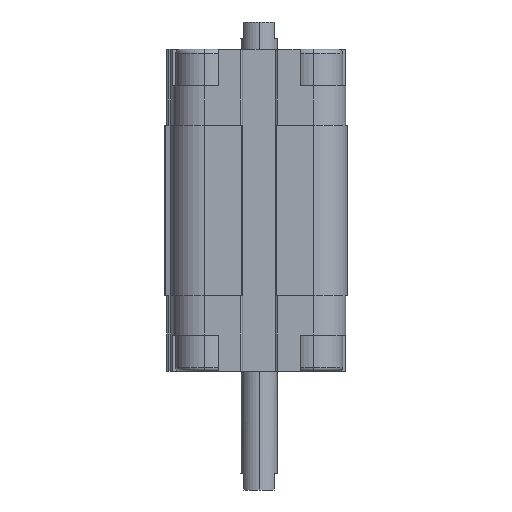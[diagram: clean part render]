
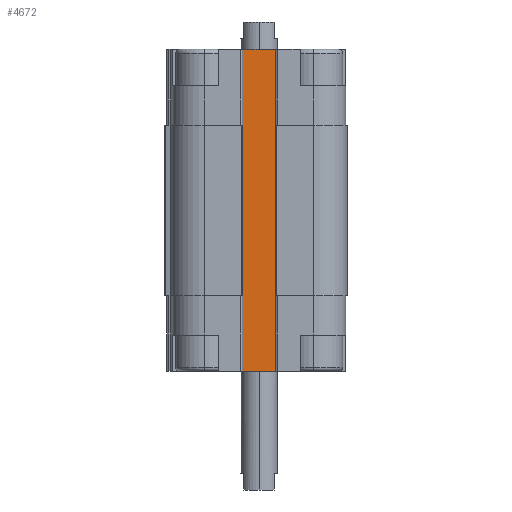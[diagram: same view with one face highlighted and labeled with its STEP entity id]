
A CAD part, left-side view. The second image highlights one B-rep face of the part: STEP entity #4672.
In plain terms, the highlighted planar face has unit normal (-1, 0, 0).
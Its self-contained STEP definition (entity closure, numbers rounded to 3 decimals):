
#29 = ORIENTED_EDGE ( 'NONE', *, *, #1718, .T. ) ;
#385 = CARTESIAN_POINT ( 'NONE',  ( -9.5, 3., -53. ) ) ;
#614 = VECTOR ( 'NONE', #13409, 1000. ) ;
#686 = CARTESIAN_POINT ( 'NONE',  ( -9.5, -3.2, -40.5 ) ) ;
#718 = CARTESIAN_POINT ( 'NONE',  ( -9.5, 3., -53. ) ) ;
#920 = DIRECTION ( 'NONE',  ( 0., -1., 0. ) ) ;
#966 = EDGE_CURVE ( 'NONE', #11577, #6899, #8906, .T. ) ;
#1143 = LINE ( 'NONE', #4037, #3323 ) ;
#1718 = EDGE_CURVE ( 'NONE', #1913, #17606, #8847, .T. ) ;
#1796 = ORIENTED_EDGE ( 'NONE', *, *, #5648, .T. ) ;
#1844 = DIRECTION ( 'NONE',  ( 0., -1., 0. ) ) ;
#1913 = VERTEX_POINT ( 'NONE', #10990 ) ;
#2383 = EDGE_CURVE ( 'NONE', #1913, #7370, #14013, .T. ) ;
#3225 = VECTOR ( 'NONE', #13623, 1000. ) ;
#3323 = VECTOR ( 'NONE', #17577, 1000. ) ;
#3402 = DIRECTION ( 'NONE',  ( 0., -1., 0. ) ) ;
#3404 = LINE ( 'NONE', #686, #12833 ) ;
#3892 = CARTESIAN_POINT ( 'NONE',  ( -9.5, 3., 0. ) ) ;
#3950 = DIRECTION ( 'NONE',  ( 0., 0., 1. ) ) ;
#4037 = CARTESIAN_POINT ( 'NONE',  ( -9.5, -3., -12.5 ) ) ;
#4591 = EDGE_CURVE ( 'NONE', #13604, #16114, #8155, .T. ) ;
#4672 = ADVANCED_FACE ( 'NONE', ( #10368 ), #9112, .T. ) ;
#4846 = EDGE_CURVE ( 'NONE', #8683, #8618, #7843, .T. ) ;
#5054 = CARTESIAN_POINT ( 'NONE',  ( -9.5, 3., -12.5 ) ) ;
#5345 = CARTESIAN_POINT ( 'NONE',  ( -9.5, -3., 0. ) ) ;
#5534 = VERTEX_POINT ( 'NONE', #13019 ) ;
#5648 = EDGE_CURVE ( 'NONE', #13604, #8618, #1143, .T. ) ;
#5664 = CARTESIAN_POINT ( 'NONE',  ( -9.5, -3., -53. ) ) ;
#6015 = DIRECTION ( 'NONE',  ( 0., 0., 1. ) ) ;
#6333 = EDGE_CURVE ( 'NONE', #8582, #5534, #12722, .T. ) ;
#6727 = LINE ( 'NONE', #5664, #11323 ) ;
#6817 = EDGE_CURVE ( 'NONE', #5534, #16114, #3404, .T. ) ;
#6899 = VERTEX_POINT ( 'NONE', #15790 ) ;
#6910 = CARTESIAN_POINT ( 'NONE',  ( -9.5, -3., -12.5 ) ) ;
#6986 = VECTOR ( 'NONE', #3950, 1000. ) ;
#7370 = VERTEX_POINT ( 'NONE', #14849 ) ;
#7412 = DIRECTION ( 'NONE',  ( 0., -1., 0. ) ) ;
#7577 = CARTESIAN_POINT ( 'NONE',  ( -9.5, 3.2, -40.5 ) ) ;
#7643 = DIRECTION ( 'NONE',  ( 0., -1., 0. ) ) ;
#7843 = LINE ( 'NONE', #3892, #614 ) ;
#7852 = EDGE_CURVE ( 'NONE', #15633, #8683, #17345, .T. ) ;
#8155 = LINE ( 'NONE', #14973, #3225 ) ;
#8178 = ORIENTED_EDGE ( 'NONE', *, *, #2383, .F. ) ;
#8356 = DIRECTION ( 'NONE',  ( 0., 0., 1. ) ) ;
#8582 = VERTEX_POINT ( 'NONE', #10827 ) ;
#8618 = VERTEX_POINT ( 'NONE', #5345 ) ;
#8672 = CARTESIAN_POINT ( 'NONE',  ( -9.5, 3.2, -40.5 ) ) ;
#8683 = VERTEX_POINT ( 'NONE', #13507 ) ;
#8847 = LINE ( 'NONE', #7577, #14554 ) ;
#8906 = LINE ( 'NONE', #718, #14407 ) ;
#9112 = PLANE ( 'NONE',  #12971 ) ;
#9512 = LINE ( 'NONE', #11134, #6986 ) ;
#9593 = EDGE_CURVE ( 'NONE', #6899, #8582, #6727, .T. ) ;
#10148 = ORIENTED_EDGE ( 'NONE', *, *, #6817, .T. ) ;
#10368 = FACE_OUTER_BOUND ( 'NONE', #12262, .T. ) ;
#10441 = VECTOR ( 'NONE', #3402, 1000. ) ;
#10540 = DIRECTION ( 'NONE',  ( 0., 0., 1. ) ) ;
#10653 = EDGE_CURVE ( 'NONE', #11577, #17606, #9512, .T. ) ;
#10767 = VECTOR ( 'NONE', #1844, 1000. ) ;
#10808 = EDGE_CURVE ( 'NONE', #7370, #15633, #16868, .T. ) ;
#10827 = CARTESIAN_POINT ( 'NONE',  ( -9.5, -3., -40.5 ) ) ;
#10990 = CARTESIAN_POINT ( 'NONE',  ( -9.5, 3.2, -40.5 ) ) ;
#11134 = CARTESIAN_POINT ( 'NONE',  ( -9.5, 3., -53. ) ) ;
#11212 = ORIENTED_EDGE ( 'NONE', *, *, #4591, .F. ) ;
#11323 = VECTOR ( 'NONE', #14905, 1000. ) ;
#11577 = VERTEX_POINT ( 'NONE', #385 ) ;
#11635 = DIRECTION ( 'NONE',  ( -1., 0., 0. ) ) ;
#12262 = EDGE_LOOP ( 'NONE', ( #15138, #12553, #16562, #8178, #29, #13050, #16661, #14679, #14355, #10148, #11212, #1796 ) ) ;
#12494 = CARTESIAN_POINT ( 'NONE',  ( -9.5, 3.2, -40.5 ) ) ;
#12553 = ORIENTED_EDGE ( 'NONE', *, *, #7852, .F. ) ;
#12722 = LINE ( 'NONE', #8672, #10767 ) ;
#12833 = VECTOR ( 'NONE', #6015, 1000. ) ;
#12971 = AXIS2_PLACEMENT_3D ( 'NONE', #15927, #11635, #7412 ) ;
#13019 = CARTESIAN_POINT ( 'NONE',  ( -9.5, -3.2, -40.5 ) ) ;
#13050 = ORIENTED_EDGE ( 'NONE', *, *, #10653, .F. ) ;
#13409 = DIRECTION ( 'NONE',  ( 0., -1., 0. ) ) ;
#13507 = CARTESIAN_POINT ( 'NONE',  ( -9.5, 3., 0. ) ) ;
#13592 = VECTOR ( 'NONE', #8356, 1000. ) ;
#13604 = VERTEX_POINT ( 'NONE', #6910 ) ;
#13623 = DIRECTION ( 'NONE',  ( 0., -1., 0. ) ) ;
#13767 = CARTESIAN_POINT ( 'NONE',  ( -9.5, 3., -40.5 ) ) ;
#14013 = LINE ( 'NONE', #12494, #13592 ) ;
#14349 = CARTESIAN_POINT ( 'NONE',  ( -9.5, 3.2, -12.5 ) ) ;
#14355 = ORIENTED_EDGE ( 'NONE', *, *, #6333, .T. ) ;
#14407 = VECTOR ( 'NONE', #7643, 1000. ) ;
#14554 = VECTOR ( 'NONE', #920, 1000. ) ;
#14679 = ORIENTED_EDGE ( 'NONE', *, *, #9593, .T. ) ;
#14849 = CARTESIAN_POINT ( 'NONE',  ( -9.5, 3.2, -12.5 ) ) ;
#14905 = DIRECTION ( 'NONE',  ( 0., 0., 1. ) ) ;
#14973 = CARTESIAN_POINT ( 'NONE',  ( -9.5, 9., -12.5 ) ) ;
#15138 = ORIENTED_EDGE ( 'NONE', *, *, #4846, .F. ) ;
#15633 = VERTEX_POINT ( 'NONE', #16599 ) ;
#15790 = CARTESIAN_POINT ( 'NONE',  ( -9.5, -3., -53. ) ) ;
#15927 = CARTESIAN_POINT ( 'NONE',  ( -9.5, 3., -12.5 ) ) ;
#16114 = VERTEX_POINT ( 'NONE', #17170 ) ;
#16562 = ORIENTED_EDGE ( 'NONE', *, *, #10808, .F. ) ;
#16599 = CARTESIAN_POINT ( 'NONE',  ( -9.5, 3., -12.5 ) ) ;
#16661 = ORIENTED_EDGE ( 'NONE', *, *, #966, .T. ) ;
#16868 = LINE ( 'NONE', #14349, #10441 ) ;
#17100 = VECTOR ( 'NONE', #10540, 1000. ) ;
#17170 = CARTESIAN_POINT ( 'NONE',  ( -9.5, -3.2, -12.5 ) ) ;
#17345 = LINE ( 'NONE', #5054, #17100 ) ;
#17577 = DIRECTION ( 'NONE',  ( 0., 0., 1. ) ) ;
#17606 = VERTEX_POINT ( 'NONE', #13767 ) ;
